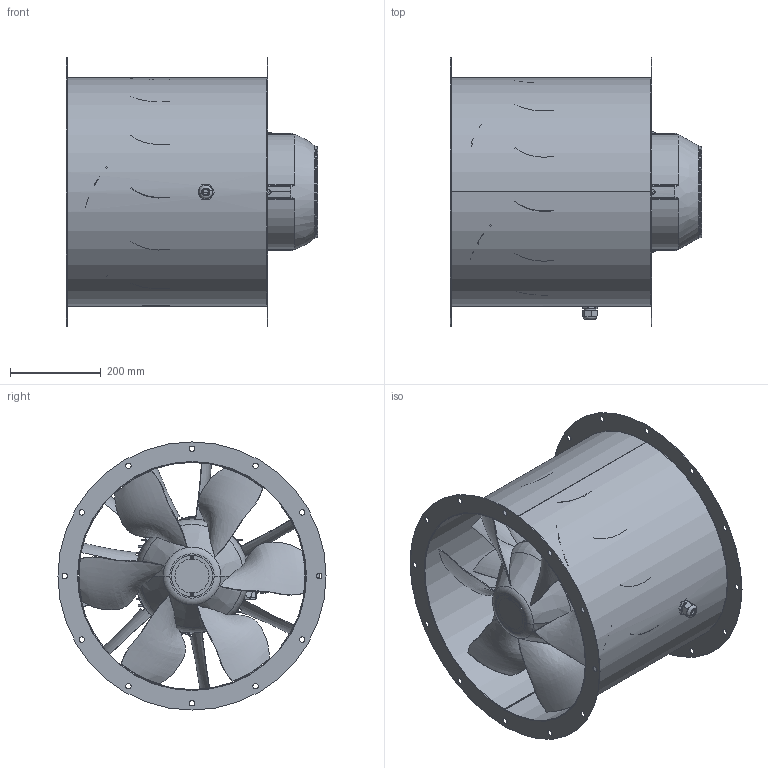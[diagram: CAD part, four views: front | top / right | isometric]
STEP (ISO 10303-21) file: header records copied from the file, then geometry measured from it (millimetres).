
FILE_DESCRIPTION (( 'STEP AP203' ), '1' );
FILE_NAME ('154118-01_AL500D201_step.step', '2020-05-29T09:45:06', ( '' ), ( '' ), 'SwSTEP 2.0', 'SolidWorks 2017', '' );
FILE_SCHEMA (( 'CONFIG_CONTROL_DESIGN' ));
Length unit declared in the file: millimetre
Products named in the file (1): 154118-01_AL500D201_step
Bounding box: 552.5 x 590 x 590 mm (x, y, z)
Surface area: 2898602 mm2 (no closed solid volume)
Topology: 0 solids, 40 shells, 1362 faces, 5106 edges, 3696 vertices
Faces by surface type: plane 1032, cylinder 213, bspline 73, torus 30, cone 14
Entity records: 375206 total; most frequent: CARTESIAN_POINT 334327, DIRECTION 7595, ORIENTED_EDGE 7570, EDGE_CURVE 5106, LINE 3851, VECTOR 3851, VERTEX_POINT 3696, AXIS2_PLACEMENT_3D 1872
